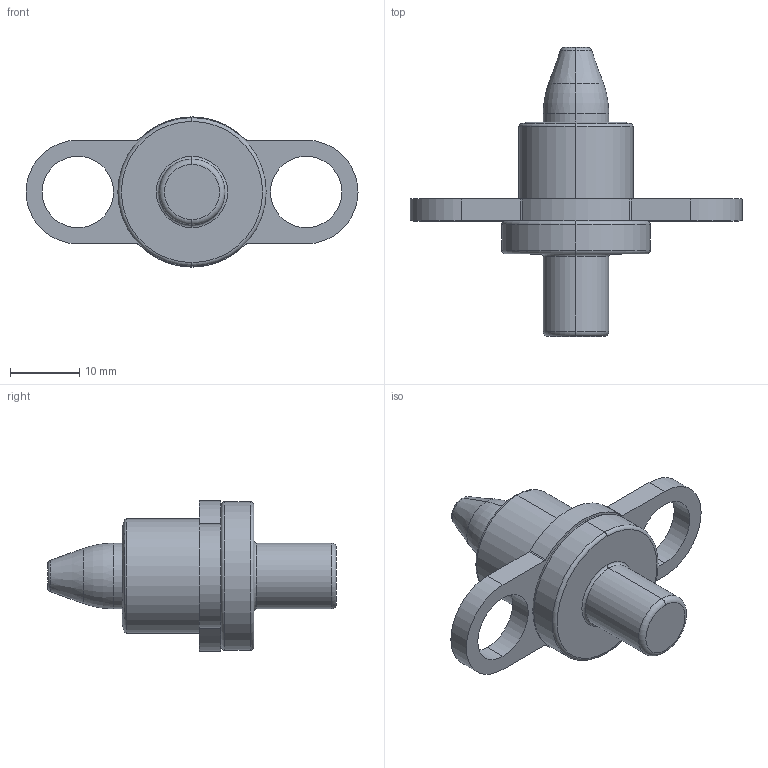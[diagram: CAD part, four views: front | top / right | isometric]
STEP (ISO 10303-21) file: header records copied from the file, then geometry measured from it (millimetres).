
FILE_DESCRIPTION (( 'STEP AP214' ), '1' );
FILE_NAME ('PA-.375-.050-R-F.stp', '2020-05-01T18:32:18', ( '' ), ( '' ), 'SwSTEP 2.0', 'SolidWorks 2017', '' );
FILE_SCHEMA (( 'AUTOMOTIVE_DESIGN' ));
Length unit declared in the file: inch
Products named in the file (1): PA-.375-.050-R-F
Bounding box: 48.01 x 41.78 x 21.72 mm (x, y, z)
Volume: 7264.2 mm3; surface area: 3743.9 mm2
Topology: 2 solids, 2 shells, 52 faces, 117 edges, 72 vertices
Faces by surface type: cylinder 23, torus 14, plane 11, cone 4
Entity records: 1538 total; most frequent: DIRECTION 301, CARTESIAN_POINT 242, ORIENTED_EDGE 234, AXIS2_PLACEMENT_3D 131, EDGE_CURVE 117, CIRCLE 78, VERTEX_POINT 72, EDGE_LOOP 61
